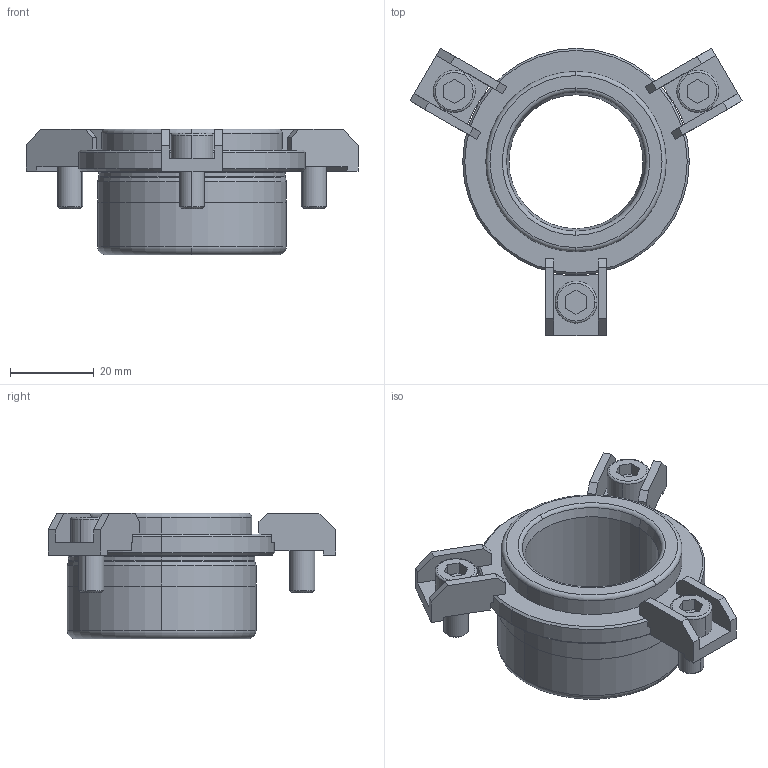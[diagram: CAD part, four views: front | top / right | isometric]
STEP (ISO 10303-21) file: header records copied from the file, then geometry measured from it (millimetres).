
FILE_DESCRIPTION((''),'2;1');
FILE_NAME('B42_024_020.stp','2008-11-04T14:19:39',(''),(''),'Mechanical Desktop 2009','Mechanical Desktop 2009',', , ');
FILE_SCHEMA(('CONFIG_CONTROL_DESIGN'));
Length unit declared in the file: millimetre
Products named in the file (2): Product; blmdl1
Assembly tree (1 placements, depth 2):
  Product
    blmdl1
Bounding box: 79.13 x 68.53 x 30 mm (x, y, z)
Volume: 30618.4 mm3; surface area: 14938.6 mm2
Topology: 7 solids, 7 shells, 185 faces, 474 edges, 312 vertices
Faces by surface type: plane 104, cylinder 39, cone 18, torus 14, bspline 10
Entity records: 6165 total; most frequent: CARTESIAN_POINT 1413, DIRECTION 1008, ORIENTED_EDGE 948, EDGE_CURVE 474, AXIS2_PLACEMENT_3D 357, VERTEX_POINT 312, VECTOR 294, LINE 294
